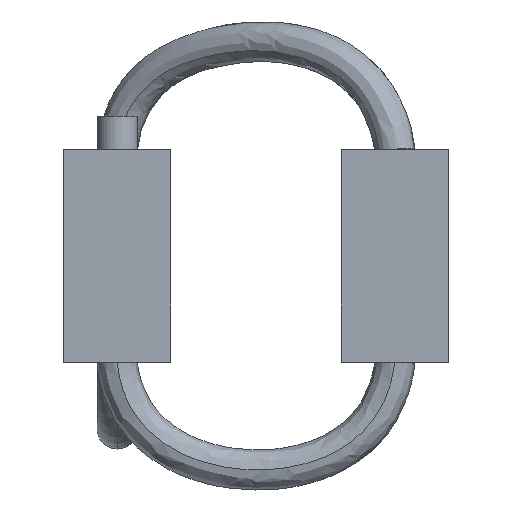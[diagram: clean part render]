
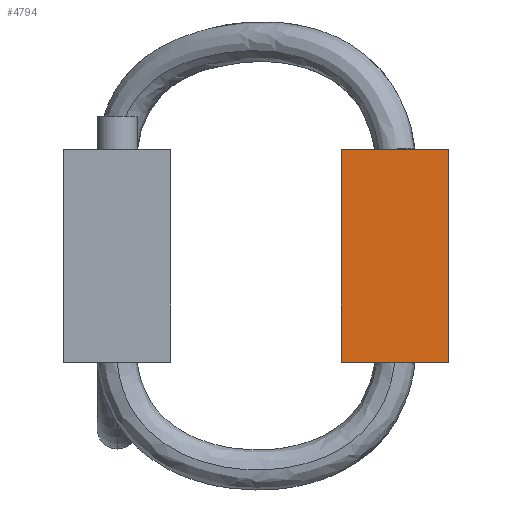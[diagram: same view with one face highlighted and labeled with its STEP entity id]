
A CAD part, left-side view. The second image highlights one B-rep face of the part: STEP entity #4794.
In plain terms, the highlighted planar face has unit normal (-1, 0, 0).
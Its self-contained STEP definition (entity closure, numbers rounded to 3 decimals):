
#95 = CARTESIAN_POINT ( 'NONE',  ( -56.15, -11.5, -6.35 ) ) ;
#269 = VERTEX_POINT ( 'NONE', #7980 ) ;
#454 = ORIENTED_EDGE ( 'NONE', *, *, #18251, .T. ) ;
#2641 = CARTESIAN_POINT ( 'NONE',  ( -56.15, -5.1, 6.35 ) ) ;
#2710 = FACE_OUTER_BOUND ( 'NONE', #17438, .T. ) ;
#2981 = DIRECTION ( 'NONE',  ( 0., 0., -1. ) ) ;
#4794 = ADVANCED_FACE ( 'NONE', ( #2710 ), #10750, .F. ) ;
#6179 = CARTESIAN_POINT ( 'NONE',  ( -56.15, -11.5, 6.35 ) ) ;
#6840 = ORIENTED_EDGE ( 'NONE', *, *, #11935, .T. ) ;
#7464 = CARTESIAN_POINT ( 'NONE',  ( -56.15, 0.4, 0. ) ) ;
#7926 = CARTESIAN_POINT ( 'NONE',  ( -56.15, -11.5, 6.35 ) ) ;
#7980 = CARTESIAN_POINT ( 'NONE',  ( -56.15, -5.1, 6.35 ) ) ;
#8192 = EDGE_CURVE ( 'NONE', #8760, #9506, #18069, .T. ) ;
#8486 = LINE ( 'NONE', #7926, #16336 ) ;
#8760 = VERTEX_POINT ( 'NONE', #12105 ) ;
#9506 = VERTEX_POINT ( 'NONE', #95 ) ;
#9731 = VECTOR ( 'NONE', #17378, 1000. ) ;
#9772 = ORIENTED_EDGE ( 'NONE', *, *, #16869, .T. ) ;
#10587 = VECTOR ( 'NONE', #17116, 1000. ) ;
#10750 = PLANE ( 'NONE',  #11645 ) ;
#10932 = LINE ( 'NONE', #2641, #18774 ) ;
#10939 = CARTESIAN_POINT ( 'NONE',  ( -56.15, -11.5, -6.35 ) ) ;
#11645 = AXIS2_PLACEMENT_3D ( 'NONE', #7464, #12327, #2981 ) ;
#11935 = EDGE_CURVE ( 'NONE', #9506, #14887, #19395, .T. ) ;
#12105 = CARTESIAN_POINT ( 'NONE',  ( -56.15, -5.1, -6.35 ) ) ;
#12327 = DIRECTION ( 'NONE',  ( 1., 0., 0. ) ) ;
#14887 = VERTEX_POINT ( 'NONE', #16670 ) ;
#15659 = ORIENTED_EDGE ( 'NONE', *, *, #8192, .T. ) ;
#16336 = VECTOR ( 'NONE', #19147, 1000. ) ;
#16670 = CARTESIAN_POINT ( 'NONE',  ( -56.15, -11.5, 6.35 ) ) ;
#16869 = EDGE_CURVE ( 'NONE', #14887, #269, #8486, .T. ) ;
#17116 = DIRECTION ( 'NONE',  ( 0., 0., 1. ) ) ;
#17378 = DIRECTION ( 'NONE',  ( 0., -1., 0. ) ) ;
#17438 = EDGE_LOOP ( 'NONE', ( #9772, #454, #15659, #6840 ) ) ;
#18069 = LINE ( 'NONE', #10939, #9731 ) ;
#18251 = EDGE_CURVE ( 'NONE', #269, #8760, #10932, .T. ) ;
#18774 = VECTOR ( 'NONE', #19869, 1000. ) ;
#19147 = DIRECTION ( 'NONE',  ( 0., 1., 0. ) ) ;
#19395 = LINE ( 'NONE', #6179, #10587 ) ;
#19869 = DIRECTION ( 'NONE',  ( 0., 0., -1. ) ) ;
